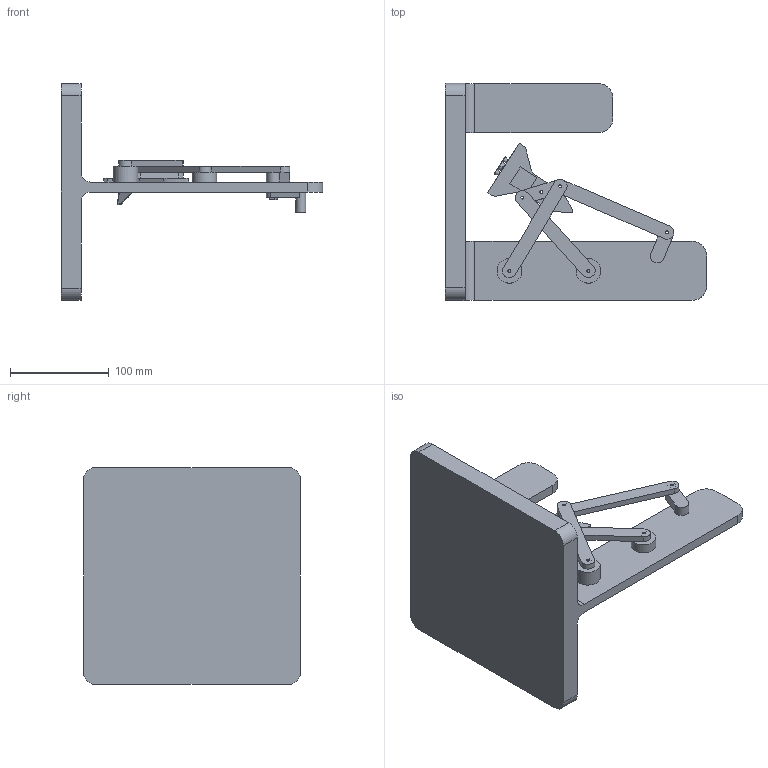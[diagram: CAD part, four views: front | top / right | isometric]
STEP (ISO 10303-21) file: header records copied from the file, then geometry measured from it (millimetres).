
FILE_DESCRIPTION(/* description */ (''),/* implementation_level */ '2;1');
FILE_NAME(/* name */ 'ass1.step',/* time_stamp */ '2026-11-10T17:33:51+07:00',/* author */ (''),/* organization */ (''),/* preprocessor_version */ 'ST-DEVELOPER v20.2',/* originating_system */ 'Autodesk Translation Framework v15.17.0.0',/* authorisation */ '');
FILE_SCHEMA (('AUTOMOTIVE_DESIGN { 1 0 10303 214 3 1 1 }'));
Length unit declared in the file: millimetre
Products named in the file (9): 2026-11-08-15-05-13-854; 2026-11-08-14-46-40-832; 2026-11-08-14-52-50-711; 2026-11-08-15-01-00-835; 2026-11-08-14-58-04-611; 2026-11-08-14-56-45-960; 2026-11-08-14-31-23-376; 2026-11-10-16-01-25-191; S4
Assembly tree (8 placements, depth 2):
  2026-11-08-15-05-13-854
    2026-11-08-14-46-40-832
    2026-11-08-14-52-50-711
    2026-11-08-15-01-00-835
    2026-11-08-14-58-04-611
    2026-11-08-14-56-45-960
    2026-11-08-14-31-23-376
    2026-11-10-16-01-25-191
    S4
Bounding box: 265 x 220 x 220 mm (x, y, z)
Volume: 1262078.7 mm3; surface area: 197526.8 mm2
Topology: 8 solids, 8 shells, 437 faces, 1106 edges, 725 vertices
Faces by surface type: plane 213, bspline 144, cylinder 71, cone 4, torus 4, sphere 1
Full cylindrical faces by diameter (mm): 3 x10, 3.75 x2, 5 x4, 6 x1, 8.4 x11, 10 x1, 25 x2
Entity records: 23734 total; most frequent: CARTESIAN_POINT 13697, ORIENTED_EDGE 2204, DIRECTION 1592, EDGE_CURVE 1102, VERTEX_POINT 725, LINE 640, VECTOR 640, EDGE_LOOP 505
